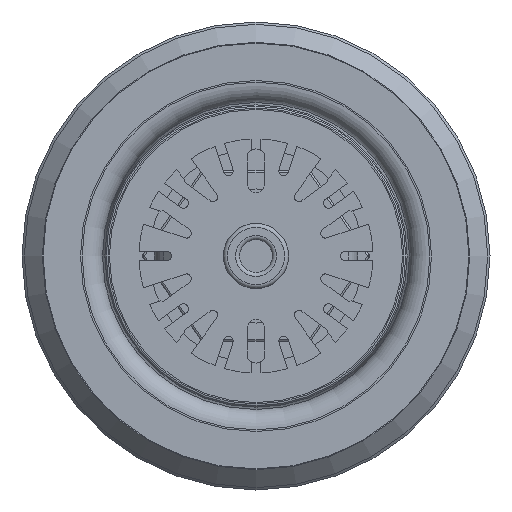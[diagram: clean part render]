
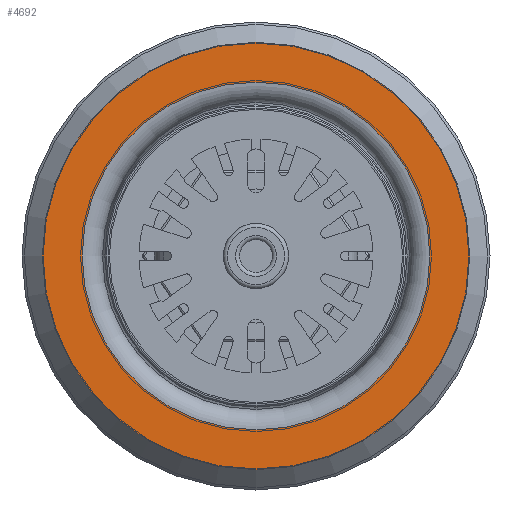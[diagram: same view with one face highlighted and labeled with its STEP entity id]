
A CAD part, front view. The second image highlights one B-rep face of the part: STEP entity #4692.
In plain terms, the highlighted planar face has unit normal (0, -1, 0).
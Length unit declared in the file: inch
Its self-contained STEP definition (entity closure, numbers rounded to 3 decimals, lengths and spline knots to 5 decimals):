
#99=FACE_BOUND('',#721,.T.);
#212=PLANE('',#5212);
#462=FACE_OUTER_BOUND('',#720,.T.);
#720=EDGE_LOOP('',(#4070,#4071));
#721=EDGE_LOOP('',(#4072,#4073));
#1686=CIRCLE('',#5208,1.3125);
#1687=CIRCLE('',#5209,1.3125);
#1690=CIRCLE('',#5213,1.06813);
#1691=CIRCLE('',#5214,1.06813);
#2118=VERTEX_POINT('',#8310);
#2119=VERTEX_POINT('',#8311);
#2122=VERTEX_POINT('',#8320);
#2123=VERTEX_POINT('',#8321);
#2772=EDGE_CURVE('',#2118,#2119,#1686,.T.);
#2773=EDGE_CURVE('',#2119,#2118,#1687,.T.);
#2777=EDGE_CURVE('',#2122,#2123,#1690,.T.);
#2778=EDGE_CURVE('',#2123,#2122,#1691,.T.);
#4070=ORIENTED_EDGE('',*,*,#2772,.T.);
#4071=ORIENTED_EDGE('',*,*,#2773,.T.);
#4072=ORIENTED_EDGE('',*,*,#2777,.F.);
#4073=ORIENTED_EDGE('',*,*,#2778,.F.);
#4692=ADVANCED_FACE('',(#462,#99),#212,.T.);
#5208=AXIS2_PLACEMENT_3D('',#8312,#6555,#6556);
#5209=AXIS2_PLACEMENT_3D('',#8313,#6557,#6558);
#5212=AXIS2_PLACEMENT_3D('',#8319,#6564,#6565);
#5213=AXIS2_PLACEMENT_3D('',#8322,#6566,#6567);
#5214=AXIS2_PLACEMENT_3D('',#8323,#6568,#6569);
#6555=DIRECTION('center_axis',(0.,-1.,0.));
#6556=DIRECTION('ref_axis',(1.,0.,0.));
#6557=DIRECTION('center_axis',(0.,-1.,0.));
#6558=DIRECTION('ref_axis',(1.,0.,0.));
#6564=DIRECTION('center_axis',(0.,-1.,0.));
#6565=DIRECTION('ref_axis',(-1.,0.,0.));
#6566=DIRECTION('center_axis',(0.,-1.,0.));
#6567=DIRECTION('ref_axis',(1.,0.,0.));
#6568=DIRECTION('center_axis',(0.,-1.,0.));
#6569=DIRECTION('ref_axis',(1.,0.,0.));
#8310=CARTESIAN_POINT('',(-1.3125,1.05,0.));
#8311=CARTESIAN_POINT('',(1.3125,1.05,0.));
#8312=CARTESIAN_POINT('Origin',(0.,1.05,0.));
#8313=CARTESIAN_POINT('Origin',(0.,1.05,0.));
#8319=CARTESIAN_POINT('Origin',(-1.06813,1.05,0.));
#8320=CARTESIAN_POINT('',(-1.06813,1.05,0.));
#8321=CARTESIAN_POINT('',(1.06813,1.05,0.));
#8322=CARTESIAN_POINT('Origin',(0.,1.05,0.));
#8323=CARTESIAN_POINT('Origin',(0.,1.05,0.));
